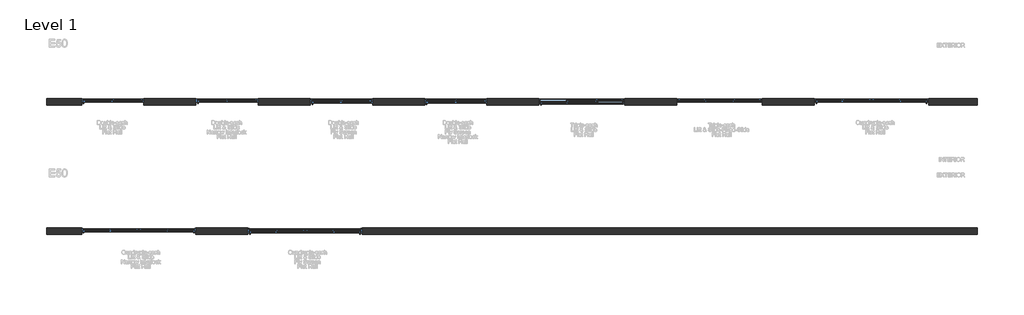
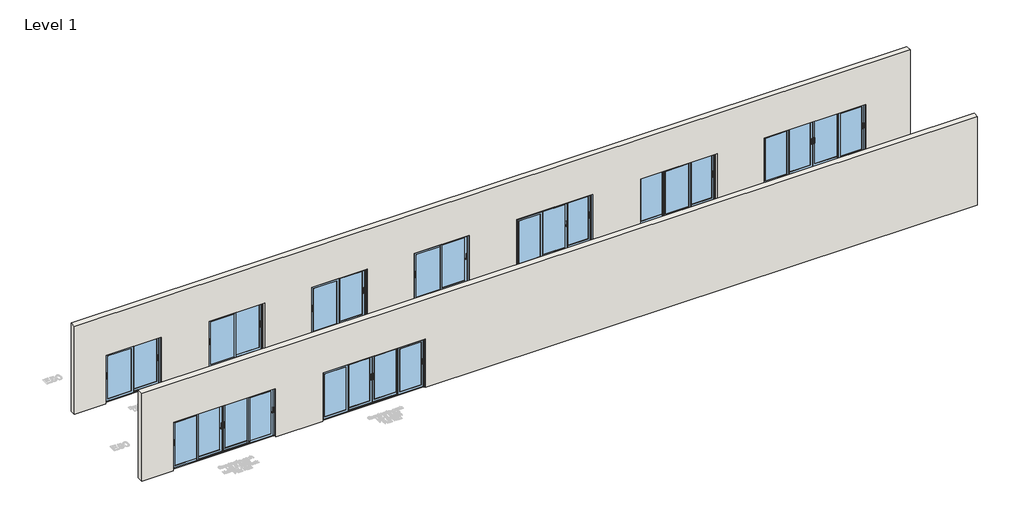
# One storey, part 1 of 11: 9 windows, 2 walls.
"""IFC4 building model written with IfcOpenShell, lengths in millimetres."""

from ifc_helpers import new_model, si_unit, frame, origin, place, context, project, spatial, polyline, outline, extrude, transform, mapped, element, save
from components import type_1_93d10275, type_1_7b7dd12c, type_1_6ca63ac7, type_1_54118faa, type_1_4643321e, type_1_025a0579, type_1_6a38bbea, type_1_650238f2, type_1_63cc301c, type_1_401ada22

model = new_model("IFC4")

# Units and contexts
model_context = context("Model", 3, world=origin())
ifc_project = project(units=[si_unit("LENGTHUNIT", "METRE", prefix="MILLI")], contexts=[model_context])

# Site, building, storey
site = spatial("IfcSite", under=ifc_project)
building = spatial("IfcBuilding", under=site)
storey = spatial("IfcBuildingStorey", under=building, Name="Level 1", Elevation=0.0)

# Walls
placement = place(None, origin())
element("IfcWall", 1, ObjectType="Generic - 250mm", at=placement, inside=storey, context=model_context, shape_type="SweptSolid", body=[
    extrude(outline(polyline([(0.0, 27656.3607098), (4000.0, 27656.3607098), (4000.0, -8171.1254021), (0.0, -8171.1254021), (0.0, -6821.1254021), (2200.0, -6821.1254021), (2200.0, -4421.1254021), (0.0, -4421.1254021), (0.0, -2421.1254021), (2200.0, -2421.1254021), (2200.0, -21.1254021), (0.0, -21.1254021), (0.0, 1978.8745979), (2200.0, 1978.8745979), (2200.0, 4378.8745979), (0.0, 4378.8745979), (0.0, 6378.8745979), (2200.0, 6378.8745979), (2200.0, 8778.8745979), (0.0, 8778.8745979), (0.0, 10778.8745979), (2200.0, 10778.8745979), (2200.0, 14078.8745979), (0.0, 14078.8745979), (0.0, 16078.9554319), (2200.0, 16078.9554319), (2200.0, 19378.9554319), (0.0, 19378.9554319), (0.0, 21378.9554319), (2200.0, 21378.9554319), (2200.0, 25778.9554319), (0.0, 25778.9554319), (0.0, 27656.3607098)])), frame((0.0, -143.0546028, 0.0), z_axis=(0.0, 1.0, 0.0), x_axis=(0.0, 0.0, 1.0)), (0.0, 0.0, 1.0), 250.0),
])
element("IfcWall", 2, ObjectType="Generic - 250mm", at=placement, inside=storey, context=model_context, shape_type="SweptSolid", body=[
    extrude(outline(polyline([(0.0, 27656.3607098), (4000.0, 27656.3607098), (4000.0, -8171.1254021), (0.0, -8171.1254021), (0.0, -6821.1254021), (2200.0, -6821.1254021), (2200.0, -2421.1254021), (0.0, -2421.1254021), (0.0, -421.1254021), (2200.0, -421.1254021), (2200.0, 3978.8745979), (0.0, 3978.8745979), (0.0, 27656.3607098)])), frame((0.0, -5143.0546028, 0.0), z_axis=(0.0, 1.0, 0.0), x_axis=(0.0, 0.0, 1.0)), (0.0, 0.0, 1.0), 250.0),
])

# Windows
type_1_shape = type_1_93d10275(model_context)
element("IfcWindow", 3, ObjectType="ETEM_E50_Quadruple_Lift_Sliding_NI_FR : Type 1", at=placement, inside=storey, context=model_context, shape_type="MappedRepresentation", body=[
    mapped(type_1_shape, transform((-4621.1254021, -5018.0546028, 0.0), x_axis=(1.0, 0.0, 0.0), y_axis=(0.0, 1.0, 0.0), z_axis=(0.0, 0.0, 1.0))),
])
type_1_2_shape = type_1_7b7dd12c(model_context)
element("IfcWindow", 4, ObjectType="ETEM_E50_Double_Lift_Sliding_FR : Type 1", at=placement, inside=storey, context=model_context, shape_type="MappedRepresentation", body=[
    mapped(type_1_2_shape, transform((-5621.1254021, -18.0546028, 0.0), x_axis=(1.0, 0.0, 0.0), y_axis=(0.0, 1.0, 0.0), z_axis=(0.0, 0.0, 1.0))),
])
type_1_3_shape = type_1_6ca63ac7(model_context)
element("IfcWindow", 5, ObjectType="ETEM_E50_Double_Lift_Sliding_NI_FR : Type 1", at=placement, inside=storey, context=model_context, shape_type="MappedRepresentation", body=[
    mapped(type_1_3_shape, transform((-1221.1254021, -19.1546028, 0.0), x_axis=(1.0, 0.0, 0.0), y_axis=(0.0, 1.0, 0.0), z_axis=(0.0, 0.0, 1.0))),
])
type_1_4_shape = type_1_54118faa(model_context)
element("IfcWindow", 6, ObjectType="ETEM_E50_Double_Fly Screen_Lift_Sliding_FR : Type 1", at=placement, inside=storey, context=model_context, shape_type="MappedRepresentation", body=[
    mapped(type_1_4_shape, transform((3178.8745979, -18.0546028, 0.0), x_axis=(1.0, 0.0, 0.0), y_axis=(0.0, 1.0, 0.0), z_axis=(0.0, 0.0, 1.0))),
])
type_1_5_shape = type_1_4643321e(model_context)
element("IfcWindow", 7, ObjectType="ETEM_E50_Double_Fly Screen_NI_Lift_Sliding_FR : Type 1", at=placement, inside=storey, context=model_context, shape_type="MappedRepresentation", body=[
    mapped(type_1_5_shape, transform((7578.8745979, -18.0546028, 0.0), x_axis=(1.0, 0.0, 0.0), y_axis=(0.0, 1.0, 0.0), z_axis=(0.0, 0.0, 1.0))),
])
type_1_6_shape = type_1_025a0579(model_context)
element("IfcWindow", 8, ObjectType="ETEM_E50_Quadruple_Lift_Sliding_FR : Type 1", at=placement, inside=storey, context=model_context, shape_type="MappedRepresentation", body=[
    mapped(type_1_6_shape, transform((23578.9554319, -18.0546028, 0.0), x_axis=(1.0, 0.0, 0.0), y_axis=(0.0, 1.0, 0.0), z_axis=(0.0, 0.0, 1.0))),
])
type_1_7_shape = type_1_6a38bbea(model_context)
type_1_8_shape = type_1_650238f2(model_context)
element("IfcWindow", 9, ObjectType="ETEM_E50_Quadruple_Fly Screen_Lift_Sliding_FR : Type 1", at=placement, inside=storey, context=model_context, shape_type="MappedRepresentation", body=[
    mapped(type_1_7_shape, transform((1778.8745979, -5018.0546028, 0.0), x_axis=(1.0, 0.0, 0.0), y_axis=(0.0, 1.0, 0.0), z_axis=(0.0, 0.0, 1.0))),
    mapped(type_1_8_shape, transform((1778.8745979, -5018.0546028, 0.0), x_axis=(1.0, 0.0, 0.0), y_axis=(0.0, 1.0, 0.0), z_axis=(0.0, 0.0, 1.0))),
])
type_1_9_shape = type_1_63cc301c(model_context)
element("IfcWindow", 10, ObjectType="ETEM_E50_Triple_Lift_Sliding_FR : Type 1", at=placement, inside=storey, context=model_context, shape_type="MappedRepresentation", body=[
    mapped(type_1_9_shape, transform((12428.8745979, -18.0546028, 0.0), x_axis=(1.0, 0.0, 0.0), y_axis=(0.0, 1.0, 0.0), z_axis=(0.0, 0.0, 1.0))),
])
type_1_10_shape = type_1_401ada22(model_context)
element("IfcWindow", 11, ObjectType="ETEM_E50_Triple_Lift_Sliding-Fixed-Sliding_FR : Type 1", at=placement, inside=storey, context=model_context, shape_type="MappedRepresentation", body=[
    mapped(type_1_10_shape, transform((17728.9554319, -18.0546028, 0.0), x_axis=(1.0, 0.0, 0.0), y_axis=(0.0, 1.0, 0.0), z_axis=(0.0, 0.0, 1.0))),
])

save(model, "model.ifc")
